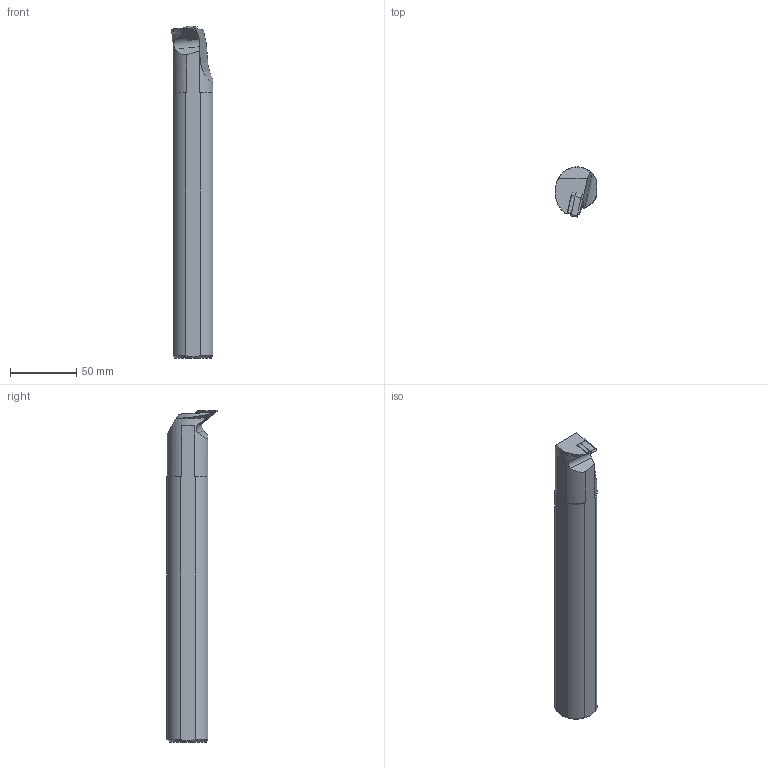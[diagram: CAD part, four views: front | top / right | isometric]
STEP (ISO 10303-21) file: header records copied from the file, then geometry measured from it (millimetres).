
FILE_DESCRIPTION(/* description */ (''),/* implementation_level */ '2;1');
FILE_NAME(/* name */ 'A32S-MVUNR-16-HAAS_210825.stp',/* time_stamp */ '2021-09-30T17:05:08+09:00',/* author */ (''),/* organization */ (''),/* preprocessor_version */ 'ST-DEVELOPER v15',/* originating_system */ 'SIEMENS PLM Software NX 8.5',/* authorisation */ '');
FILE_SCHEMA (('AP203_CONFIGURATION_CONTROLLED_3D_DESIGN_OF_MECHANICAL_PARTS_AND_ASSEMBLIES_MIM_LF { 1 0 10303 403 2 1 2}'));
Length unit declared in the file: millimetre
Products named in the file (1): userF2984F2A8mbl
Bounding box: 31.59 x 38 x 250 mm (x, y, z)
Volume: 186515.9 mm3; surface area: 26833.9 mm2
Topology: 3 solids, 3 shells, 52 faces, 126 edges, 81 vertices
Faces by surface type: plane 27, cylinder 14, cone 9, torus 1, bspline 1
Full cylindrical faces by diameter (mm): 3.81 x1, 5.77 x1, 6.43 x1
Entity records: 1665 total; most frequent: CARTESIAN_POINT 385, DIRECTION 247, ORIENTED_EDGE 234, EDGE_CURVE 117, AXIS2_PLACEMENT_3D 93, VERTEX_POINT 79, EDGE_LOOP 64, LINE 61
